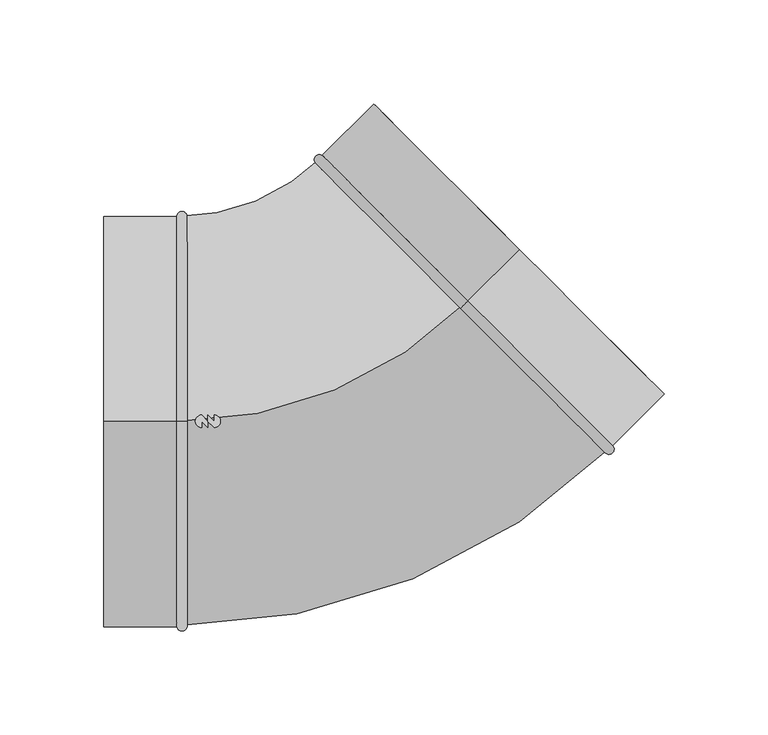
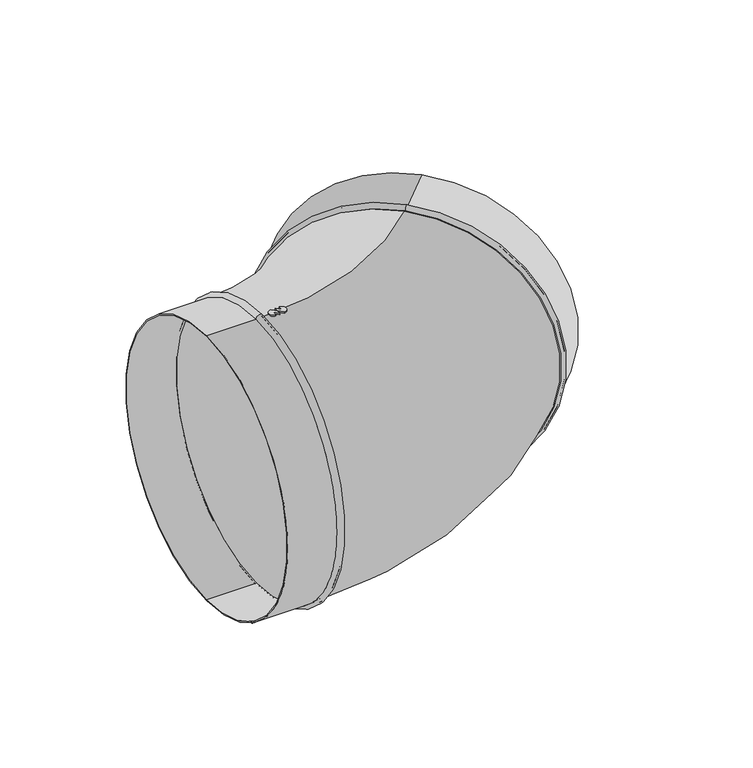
"""IFC4 building model written with IfcOpenShell, lengths in millimetres: duct fitting geometry, NLRS_57_DUF_UN_9mm_dampdichte_ronde_bocht_LT_velu : SB_EDI."""

from ifc_helpers import new_model, si_unit, point, frame, frame_2d, origin, place, context, project, spatial, polyline, circle_curve, ellipse_curve, trimmed, segment, composite_curve, outline, extrude, source, transform, mapped, element, save
from ifc_brep_helpers import plane_surface, cylinder_surface, revolved_surface, advanced_brep


def duct_fitting_f7ede2d6(model_context):
    return source(origin(), model_context, "Body", "SolidModel", [
        extrude(outline(composite_curve([segment(trimmed(circle_curve(frame_2d((-64.0, 0.0)), 3.0), [point((-64.0, 3.0))], [point((-64.0, -3.0))], False, "CARTESIAN"), True, "CONTINUOUS"), segment(polyline([(-64.0, -3.0), (-67.0, 0.0), (-67.0, 3.0), (-64.0, 0.0), (-64.0, 3.0)]), True, "CONTINUOUS")], self_intersect=False)), frame((0.0, 0.0, -100.0), z_axis=(0.0, 0.0, 1.0), x_axis=(1.0, 0.0, 0.0)), (0.0, 0.0, 1.0), 1.0),
        extrude(outline(composite_curve([segment(trimmed(circle_curve(frame_2d((-70.0, 0.0)), 3.0), [point((-70.0, -3.0))], [point((-70.0, 3.0))], False, "CARTESIAN"), True, "CONTINUOUS"), segment(polyline([(-70.0, 3.0), (-67.0, 0.0), (-67.0, -3.0), (-70.0, 0.0), (-70.0, -3.0)]), True, "CONTINUOUS")], self_intersect=False)), frame((0.0, 0.0, -100.0), z_axis=(0.0, 0.0, 1.0), x_axis=(1.0, 0.0, 0.0)), (0.0, 0.0, 1.0), 1.0),
        extrude(outline(composite_curve([segment(trimmed(circle_curve(frame_2d((-64.0, 0.0)), 3.0), [point((-64.0, 3.0))], [point((-64.0, -3.0))], False, "CARTESIAN"), True, "CONTINUOUS"), segment(polyline([(-64.0, -3.0), (-67.0, 0.0), (-67.0, 3.0), (-64.0, 0.0), (-64.0, 3.0)]), True, "CONTINUOUS")], self_intersect=False)), frame((0.0, 0.0, 99.0), z_axis=(0.0, 0.0, 1.0), x_axis=(1.0, 0.0, 0.0)), (0.0, 0.0, 1.0), 1.0),
        extrude(outline(composite_curve([segment(trimmed(circle_curve(frame_2d((-70.0, 0.0)), 3.0), [point((-70.0, -3.0))], [point((-70.0, 3.0))], False, "CARTESIAN"), True, "CONTINUOUS"), segment(polyline([(-70.0, 3.0), (-67.0, 0.0), (-67.0, -3.0), (-70.0, 0.0), (-70.0, -3.0)]), True, "CONTINUOUS")], self_intersect=False)), frame((0.0, 0.0, 99.0), z_axis=(0.0, 0.0, 1.0), x_axis=(1.0, 0.0, 0.0)), (0.0, 0.0, 1.0), 1.0),
        advanced_brep(
        [(55.1543289, 55.1543289, 99.0), (55.1543289, 55.1543289, -99.0), (57.2756493, 57.2756493, -99.0), (57.2756493, 57.2756493, 99.0), (54.4472222, 54.4472222, 98.0), (54.4472222, 54.4472222, -98.0), (55.1543289, 55.1543289, -98.0), (55.1543289, 55.1543289, 98.0), (57.9827561, 57.9827561, 99.0), (57.9827561, 57.9827561, -99.0), (54.4472222, 54.4472222, -99.0), (54.4472222, 54.4472222, 99.0), (82.7314934, 82.7314934, 99.0), (82.7314934, 82.7314934, -99.0), (57.2756493, 57.2756493, 98.0), (57.2756493, 57.2756493, -98.0), (82.7314934, 82.7314934, -98.0), (82.7314934, 82.7314934, 98.0)],
        [
            (0, 1, circle_curve(frame((55.1543289, 55.1543289, 0.0), z_axis=(-0.707106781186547, -0.7071067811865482, 0.0), x_axis=(0.0, 0.0, -1.0)), 99.0)),
            (1, 2, circle_curve(frame((56.2149891, 56.2149891, -99.0), z_axis=(0.7071067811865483, -0.7071067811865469, 0.0), x_axis=(-0.7071067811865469, -0.7071067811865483, 0.0)), 1.5)),
            (2, 3, circle_curve(frame((57.2756493, 57.2756493, 0.0), z_axis=(0.707106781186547, 0.7071067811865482, 0.0), x_axis=(0.0, 0.0, -1.0)), 99.0)),
            (3, 0, circle_curve(frame((56.2149891, 56.2149891, 99.0), z_axis=(0.7071067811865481, -0.7071067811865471, 0.0), x_axis=(-0.7071067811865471, -0.7071067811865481, 0.0)), 1.5)),
            (4, 5, circle_curve(frame((54.4472222, 54.4472222, 0.0), z_axis=(-0.707106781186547, -0.7071067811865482, 0.0), x_axis=(0.0, 0.0, -1.0)), 98.0)),
            (5, 6),
            (6, 7, circle_curve(frame((55.1543289, 55.1543289, 0.0), z_axis=(0.707106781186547, 0.7071067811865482, 0.0), x_axis=(0.0, 0.0, -1.0)), 98.0)),
            (7, 4),
            (8, 9, circle_curve(frame((57.9827561, 57.9827561, 0.0), z_axis=(-0.707106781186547, -0.7071067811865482, 0.0), x_axis=(0.0, 0.0, -1.0)), 99.0)),
            (9, 10, circle_curve(frame((56.2149891, 56.2149891, -99.0), z_axis=(-0.7071067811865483, 0.7071067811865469, 0.0), x_axis=(-0.7071067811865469, -0.7071067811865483, 0.0)), 2.5)),
            (10, 11, circle_curve(frame((54.4472222, 54.4472222, 0.0), z_axis=(0.707106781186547, 0.7071067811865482, 0.0), x_axis=(0.0, 0.0, -1.0)), 99.0)),
            (11, 8, circle_curve(frame((56.2149891, 56.2149891, 99.0), z_axis=(-0.7071067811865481, 0.7071067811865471, 0.0), x_axis=(-0.7071067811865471, -0.7071067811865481, 0.0)), 2.5)),
            (12, 13, circle_curve(frame((82.7314934, 82.7314934, 0.0), z_axis=(-0.707106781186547, -0.7071067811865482, 0.0), x_axis=(0.0, 0.0, -1.0)), 99.0)),
            (13, 9),
            (8, 12),
            (14, 15, circle_curve(frame((57.2756493, 57.2756493, 0.0), z_axis=(-0.707106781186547, -0.7071067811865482, 0.0), x_axis=(0.0, 0.0, -1.0)), 98.0)),
            (15, 16),
            (16, 17, circle_curve(frame((82.7314934, 82.7314934, 0.0), z_axis=(0.707106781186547, 0.7071067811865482, 0.0), x_axis=(0.0, 0.0, -1.0)), 98.0)),
            (17, 14),
            (2, 3, circle_curve(frame((57.2756493, 57.2756493, 0.0), z_axis=(-0.707106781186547, -0.7071067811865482, 0.0), x_axis=(0.0, 0.0, 1.0)), 99.0)),
            (14, 15, circle_curve(frame((57.2756493, 57.2756493, 0.0), z_axis=(0.707106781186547, 0.7071067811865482, 0.0), x_axis=(0.0, 0.0, 1.0)), 98.0)),
            (1, 0, circle_curve(frame((55.1543289, 55.1543289, 0.0), z_axis=(-0.707106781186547, -0.7071067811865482, 0.0), x_axis=(0.0, 0.0, 1.0)), 99.0)),
            (6, 7, circle_curve(frame((55.1543289, 55.1543289, 0.0), z_axis=(-0.707106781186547, -0.7071067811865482, 0.0), x_axis=(0.0, 0.0, 1.0)), 98.0)),
            (5, 4, circle_curve(frame((54.4472222, 54.4472222, 0.0), z_axis=(-0.707106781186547, -0.7071067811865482, 0.0), x_axis=(0.0, 0.0, 1.0)), 98.0)),
            (10, 11, circle_curve(frame((54.4472222, 54.4472222, 0.0), z_axis=(-0.707106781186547, -0.7071067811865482, 0.0), x_axis=(0.0, 0.0, 1.0)), 99.0)),
            (9, 8, circle_curve(frame((57.9827561, 57.9827561, 0.0), z_axis=(-0.707106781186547, -0.7071067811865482, 0.0), x_axis=(0.0, 0.0, 1.0)), 99.0)),
            (13, 12, circle_curve(frame((82.7314934, 82.7314934, 0.0), z_axis=(-0.707106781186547, -0.7071067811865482, 0.0), x_axis=(0.0, 0.0, 1.0)), 99.0)),
            (16, 17, circle_curve(frame((82.7314934, 82.7314934, 0.0), z_axis=(-0.707106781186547, -0.7071067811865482, 0.0), x_axis=(0.0, 0.0, 1.0)), 98.0)),
        ],
        [
            revolved_surface(trimmed(ellipse_curve(frame((56.2149891, 56.2149891, -99.0), z_axis=(-0.7071067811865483, 0.7071067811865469, 0.0), x_axis=(-0.7071067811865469, -0.7071067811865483, 0.0)), 1.5, 1.5), [point((57.2756493, 57.2756493, -99.0))], [point((55.1543289, 55.1543289, -99.0))], True, "CARTESIAN"), (57.9827561, 57.9827561, 0.0), (0.707106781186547, 0.7071067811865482, 0.0)),
            revolved_surface(polyline([(55.1543289, 55.154328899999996, -98.0), (54.4472222, 54.44722219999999, -98.0)]), (57.9827561, 57.9827561, 0.0), (0.707106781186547, 0.7071067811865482, 0.0)),
            revolved_surface(trimmed(ellipse_curve(frame((56.2149891, 56.2149891, -99.0), z_axis=(0.7071067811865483, -0.7071067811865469, 0.0), x_axis=(-0.7071067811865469, -0.7071067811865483, 0.0)), 2.5, 2.5), [point((54.4472222, 54.4472222, -99.0))], [point((57.9827561, 57.9827561, -99.0))], True, "CARTESIAN"), (57.9827561, 57.9827561, 0.0), (0.707106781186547, 0.7071067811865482, 0.0)),
            cylinder_surface(frame((57.9827561, 57.9827561, 0.0), z_axis=(0.707106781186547, 0.7071067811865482, 0.0), x_axis=(0.0, 0.0, -1.0)), 99.0),
            revolved_surface(polyline([(82.73149339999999, 82.73149340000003, -98.0), (57.2756493, 57.2756493, -98.0)]), (57.9827561, 57.9827561, 0.0), (0.707106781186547, 0.7071067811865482, 0.0)),
            plane_surface(frame((57.2756493, 57.2756493, 0.0), z_axis=(-0.707106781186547, -0.7071067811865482, 0.0), x_axis=(0.0, 0.0, 1.0))),
            revolved_surface(trimmed(ellipse_curve(frame((56.2149891, 56.2149891, 99.0), z_axis=(0.7071067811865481, -0.7071067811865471, 0.0), x_axis=(-0.7071067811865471, -0.7071067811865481, 0.0)), 1.5, 1.5), [point((57.2756493, 57.2756493, 99.0))], [point((55.1543289, 55.1543289, 99.0))], True, "CARTESIAN"), (57.9827561, 57.9827561, 0.0), (0.707106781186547, 0.7071067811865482, 0.0)),
            plane_surface(frame((55.1543289, 55.1543289, 0.0), z_axis=(0.707106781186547, 0.7071067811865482, 0.0), x_axis=(0.0, 0.0, 1.0))),
            revolved_surface(polyline([(55.1543289, 55.154328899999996, 98.0), (54.4472222, 54.44722219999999, 98.0)]), (57.9827561, 57.9827561, 0.0), (0.707106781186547, 0.7071067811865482, 0.0)),
            plane_surface(frame((54.4472222, 54.4472222, 0.0), z_axis=(-0.707106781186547, -0.7071067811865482, 0.0), x_axis=(0.0, 0.0, 1.0))),
            revolved_surface(trimmed(ellipse_curve(frame((56.2149891, 56.2149891, 99.0), z_axis=(-0.7071067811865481, 0.7071067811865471, 0.0), x_axis=(-0.7071067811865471, -0.7071067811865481, 0.0)), 2.5, 2.5), [point((54.4472222, 54.4472222, 99.0))], [point((57.9827561, 57.9827561, 99.0))], True, "CARTESIAN"), (57.9827561, 57.9827561, 0.0), (0.707106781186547, 0.7071067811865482, 0.0)),
            cylinder_surface(frame((57.9827561, 57.9827561, 0.0), z_axis=(0.707106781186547, 0.7071067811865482, 0.0), x_axis=(0.0, 0.0, 1.0)), 99.0),
            plane_surface(frame((82.7314934, 82.7314934, 0.0), z_axis=(0.707106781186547, 0.7071067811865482, 0.0), x_axis=(0.0, 0.0, 1.0))),
            revolved_surface(polyline([(82.73149339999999, 82.73149340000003, 98.0), (57.2756493, 57.2756493, 98.0)]), (57.9827561, 57.9827561, 0.0), (0.707106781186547, 0.7071067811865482, 0.0)),
        ],
        [
            (0, [[1, 2, 3, 4]]),
            (1, [[5, 6, 7, 8]]),
            (2, [[9, 10, 11, 12]]),
            (3, [[13, 14, -9, 15]]),
            (4, [[16, 17, 18, 19]]),
            (5, [[20, -3], [21, -16]]),
            (6, [[22, -4, -20, -2]]),
            (7, [[-22, -1], [23, -7]]),
            (8, [[24, -8, -23, -6]]),
            (9, [[25, -11], [-24, -5]]),
            (10, [[26, -12, -25, -10]]),
            (11, [[27, -15, -26, -14]]),
            (12, [[-27, -13], [28, -18]]),
            (13, [[-21, -19, -28, -17]]),
        ],
    ),
        advanced_brep(
        [(-78.0, 0.0, 99.0), (-78.0, 0.0, -99.0), (-81.0, 0.0, -99.0), (-81.0, 0.0, 99.0), (-77.0, 0.0, 98.0), (-77.0, 0.0, -98.0), (-78.0, 0.0, -98.0), (-78.0, 0.0, 98.0), (-82.0, 0.0, 99.0), (-82.0, 0.0, -99.0), (-77.0, 0.0, -99.0), (-77.0, 0.0, 99.0), (-117.0, 0.0, 99.0), (-117.0, 0.0, -99.0), (-81.0, 0.0, 98.0), (-81.0, 0.0, -98.0), (-117.0, 0.0, -98.0), (-117.0, 0.0, 98.0)],
        [
            (0, 1, circle_curve(frame((-78.0, 0.0, 0.0), z_axis=(1.0, 0.0, 0.0), x_axis=(0.0, 0.0, -1.0)), 99.0)),
            (1, 2, circle_curve(frame((-79.5, 0.0, -99.0), z_axis=(0.0, 1.0, 0.0), x_axis=(1.0, 0.0, 0.0)), 1.5)),
            (2, 3, circle_curve(frame((-81.0, 0.0, 0.0), z_axis=(-1.0, 0.0, 0.0), x_axis=(0.0, 0.0, -1.0)), 99.0)),
            (3, 0, circle_curve(frame((-79.5, 0.0, 99.0), z_axis=(0.0, 1.0, 0.0), x_axis=(1.0, 0.0, 0.0)), 1.5)),
            (4, 5, circle_curve(frame((-77.0, 0.0, 0.0), z_axis=(1.0, 0.0, 0.0), x_axis=(0.0, 0.0, -1.0)), 98.0)),
            (5, 6),
            (6, 7, circle_curve(frame((-78.0, 0.0, 0.0), z_axis=(-1.0, 0.0, 0.0), x_axis=(0.0, 0.0, -1.0)), 98.0)),
            (7, 4),
            (8, 9, circle_curve(frame((-82.0, 0.0, 0.0), z_axis=(1.0, 0.0, 0.0), x_axis=(0.0, 0.0, -1.0)), 99.0)),
            (9, 10, circle_curve(frame((-79.5, 0.0, -99.0), z_axis=(0.0, -1.0, 0.0), x_axis=(1.0, 0.0, 0.0)), 2.5)),
            (10, 11, circle_curve(frame((-77.0, 0.0, 0.0), z_axis=(-1.0, 0.0, 0.0), x_axis=(0.0, 0.0, -1.0)), 99.0)),
            (11, 8, circle_curve(frame((-79.5, 0.0, 99.0), z_axis=(0.0, -1.0, 0.0), x_axis=(1.0, 0.0, 0.0)), 2.5)),
            (12, 13, circle_curve(frame((-117.0, 0.0, 0.0), z_axis=(1.0, 0.0, 0.0), x_axis=(0.0, 0.0, -1.0)), 99.0)),
            (13, 9),
            (8, 12),
            (14, 15, circle_curve(frame((-81.0, 0.0, 0.0), z_axis=(1.0, 0.0, 0.0), x_axis=(0.0, 0.0, -1.0)), 98.0)),
            (15, 16),
            (16, 17, circle_curve(frame((-117.0, 0.0, 0.0), z_axis=(-1.0, 0.0, 0.0), x_axis=(0.0, 0.0, -1.0)), 98.0)),
            (17, 14),
            (2, 3, circle_curve(frame((-81.0, 0.0, 0.0), z_axis=(1.0, 0.0, 0.0), x_axis=(0.0, 0.0, 1.0)), 99.0)),
            (14, 15, circle_curve(frame((-81.0, 0.0, 0.0), z_axis=(-1.0, 0.0, 0.0), x_axis=(0.0, 0.0, 1.0)), 98.0)),
            (1, 0, circle_curve(frame((-78.0, 0.0, 0.0), z_axis=(1.0, 0.0, 0.0), x_axis=(0.0, 0.0, 1.0)), 99.0)),
            (6, 7, circle_curve(frame((-78.0, 0.0, 0.0), z_axis=(1.0, 0.0, 0.0), x_axis=(0.0, 0.0, 1.0)), 98.0)),
            (5, 4, circle_curve(frame((-77.0, 0.0, 0.0), z_axis=(1.0, 0.0, 0.0), x_axis=(0.0, 0.0, 1.0)), 98.0)),
            (10, 11, circle_curve(frame((-77.0, 0.0, 0.0), z_axis=(1.0, 0.0, 0.0), x_axis=(0.0, 0.0, 1.0)), 99.0)),
            (9, 8, circle_curve(frame((-82.0, 0.0, 0.0), z_axis=(1.0, 0.0, 0.0), x_axis=(0.0, 0.0, 1.0)), 99.0)),
            (13, 12, circle_curve(frame((-117.0, 0.0, 0.0), z_axis=(1.0, 0.0, 0.0), x_axis=(0.0, 0.0, 1.0)), 99.0)),
            (16, 17, circle_curve(frame((-117.0, 0.0, 0.0), z_axis=(1.0, 0.0, 0.0), x_axis=(0.0, 0.0, 1.0)), 98.0)),
        ],
        [
            revolved_surface(trimmed(ellipse_curve(frame((-79.5, 0.0, -99.0), z_axis=(0.0, -1.0, 0.0), x_axis=(1.0, 0.0, 0.0)), 1.5, 1.5), [point((-81.0, 0.0, -99.0))], [point((-78.0, 0.0, -99.0))], True, "CARTESIAN"), (-82.0, 0.0, 0.0), (-1.0, 0.0, 0.0)),
            revolved_surface(polyline([(-78.0, 0.0, -98.0), (-77.0, 0.0, -98.0)]), (-82.0, 0.0, 0.0), (-1.0, 0.0, 0.0)),
            revolved_surface(trimmed(ellipse_curve(frame((-79.5, 0.0, -99.0), z_axis=(0.0, 1.0, 0.0), x_axis=(1.0, 0.0, 0.0)), 2.5, 2.5), [point((-77.0, 0.0, -99.0))], [point((-82.0, 0.0, -99.0))], True, "CARTESIAN"), (-82.0, 0.0, 0.0), (-1.0, 0.0, 0.0)),
            cylinder_surface(frame((-82.0, 0.0, 0.0), z_axis=(-1.0, 0.0, 0.0), x_axis=(0.0, 0.0, -1.0)), 99.0),
            revolved_surface(polyline([(-117.0, 0.0, -98.0), (-81.0, 0.0, -98.0)]), (-82.0, 0.0, 0.0), (-1.0, 0.0, 0.0)),
            plane_surface(frame((-81.0, 0.0, 0.0), z_axis=(1.0, 0.0, 0.0), x_axis=(0.0, 0.0, 1.0))),
            revolved_surface(trimmed(ellipse_curve(frame((-79.5, 0.0, 99.0), z_axis=(0.0, 1.0, 0.0), x_axis=(1.0, 0.0, 0.0)), 1.5, 1.5), [point((-81.0, 0.0, 99.0))], [point((-78.0, 0.0, 99.0))], True, "CARTESIAN"), (-82.0, 0.0, 0.0), (-1.0, 0.0, 0.0)),
            plane_surface(frame((-78.0, 0.0, 0.0), z_axis=(-1.0, 0.0, 0.0), x_axis=(0.0, 0.0, 1.0))),
            revolved_surface(polyline([(-78.0, 0.0, 98.0), (-77.0, 0.0, 98.0)]), (-82.0, 0.0, 0.0), (-1.0, 0.0, 0.0)),
            plane_surface(frame((-77.0, 0.0, 0.0), z_axis=(1.0, 0.0, 0.0), x_axis=(0.0, 0.0, 1.0))),
            revolved_surface(trimmed(ellipse_curve(frame((-79.5, 0.0, 99.0), z_axis=(0.0, -1.0, 0.0), x_axis=(1.0, 0.0, 0.0)), 2.5, 2.5), [point((-77.0, 0.0, 99.0))], [point((-82.0, 0.0, 99.0))], True, "CARTESIAN"), (-82.0, 0.0, 0.0), (-1.0, 0.0, 0.0)),
            cylinder_surface(frame((-82.0, 0.0, 0.0), z_axis=(-1.0, 0.0, 0.0), x_axis=(0.0, 0.0, 1.0)), 99.0),
            plane_surface(frame((-117.0, 0.0, 0.0), z_axis=(-1.0, 0.0, 0.0), x_axis=(0.0, 0.0, 1.0))),
            revolved_surface(polyline([(-117.0, 0.0, 98.0), (-81.0, 0.0, 98.0)]), (-82.0, 0.0, 0.0), (-1.0, 0.0, 0.0)),
        ],
        [
            (0, [[1, 2, 3, 4]]),
            (1, [[5, 6, 7, 8]]),
            (2, [[9, 10, 11, 12]]),
            (3, [[13, 14, -9, 15]]),
            (4, [[16, 17, 18, 19]]),
            (5, [[20, -3], [21, -16]]),
            (6, [[22, -4, -20, -2]]),
            (7, [[-22, -1], [23, -7]]),
            (8, [[24, -8, -23, -6]]),
            (9, [[25, -11], [-24, -5]]),
            (10, [[26, -12, -25, -10]]),
            (11, [[27, -15, -26, -14]]),
            (12, [[-27, -13], [28, -18]]),
            (13, [[-21, -19, -28, -17]]),
        ],
    ),
        advanced_brep(
        [(-82.0, 0.0, 99.0), (-82.0, 0.0, -99.0), (57.9827561, 57.9827561, 99.0), (57.9827561, 57.9827561, -99.0)],
        [
            (0, 1, circle_curve(frame((-82.0, 0.0, 0.0), z_axis=(-1.0000000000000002, 0.0, 0.0), x_axis=(0.0, 0.0, -1.0000000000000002)), 99.0)),
            (1, 0, circle_curve(frame((-82.0, 0.0, 0.0), z_axis=(-1.0000000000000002, 0.0, 0.0), x_axis=(0.0, 0.0, -1.0000000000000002)), 99.0)),
            (2, 3, circle_curve(frame((57.9827561, 57.9827561, 0.0), z_axis=(0.7071067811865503, 0.7071067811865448, 0.0), x_axis=(0.0, 0.0, -1.0000000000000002)), 99.0)),
            (3, 2, circle_curve(frame((57.9827561, 57.9827561, 0.0), z_axis=(0.7071067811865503, 0.7071067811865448, 0.0), x_axis=(0.0, 0.0, -1.0000000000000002)), 99.0)),
            (3, 1, circle_curve(frame((-82.0, 197.9655121, -99.0), z_axis=(0.0, 0.0, -1.0), x_axis=(0.0, -1.0, 0.0)), 197.9655121)),
            (0, 2, circle_curve(frame((-82.0, 197.9655121, 99.0), z_axis=(0.0, 0.0, 1.0), x_axis=(0.0, -1.0, 0.0)), 197.9655121)),
        ],
        [
            plane_surface(frame((-82.0, 0.0, 0.0), z_axis=(-1.0, 0.0, 0.0), x_axis=(0.0, 0.0, 1.0))),
            plane_surface(frame((57.9827561, 57.9827561, 0.0), z_axis=(0.7071067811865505, 0.7071067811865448, 0.0), x_axis=(0.0, 0.0, 1.0))),
            revolved_surface(trimmed(ellipse_curve(frame((-82.0, 0.0, 0.0), z_axis=(-1.0000000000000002, 0.0, 0.0), x_axis=(0.0, 0.0, -1.0000000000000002)), 99.0, 99.0), [point((-82.0, 0.0, 99.0))], [point((-82.0, 0.0, -99.0))], True, "CARTESIAN"), (-82.0, 197.9655121, 0.0), (0.0, 0.0, 1.0000000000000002)),
            revolved_surface(trimmed(ellipse_curve(frame((-82.0, 0.0, 0.0), z_axis=(-1.0000000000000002, 0.0, 0.0), x_axis=(0.0, 0.0, -1.0000000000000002)), 99.0, 99.0), [point((-82.0, 0.0, -99.0))], [point((-82.0, 0.0, 99.0))], True, "CARTESIAN"), (-82.0, 197.9655121, 0.0), (0.0, 0.0, 1.0000000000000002)),
        ],
        [
            (0, [[1, 2]]),
            (1, [[3, 4]]),
            (2, [[5, -1, 6, -4]]),
            (3, [[-6, -2, -5, -3]]),
        ],
    ),
    ])


if __name__ == "__main__":
    model = new_model("IFC4")
    model_context = context("Model", 3, world=origin())
    ifc_project = project(units=[si_unit("LENGTHUNIT", "METRE", prefix="MILLI")], contexts=[model_context])
    site = spatial("IfcSite", under=ifc_project)
    building = spatial("IfcBuilding", under=site)
    placement = place(None, origin())
    duct_fitting_shape = duct_fitting_f7ede2d6(model_context)
    element("IfcDuctFitting", 1, ObjectType="NLRS_57_DUF_UN_9mm_dampdichte_ronde_bocht_LT_velu : SB_EDI", at=placement, inside=building, context=model_context, shape_type="MappedRepresentation", body=[
        mapped(duct_fitting_shape, transform((0.0, 0.0, 0.0), x_axis=(1.0, 0.0, 0.0), y_axis=(0.0, 1.0, 0.0), z_axis=(0.0, 0.0, 1.0))),
    ])
    save(model, "model.ifc")
